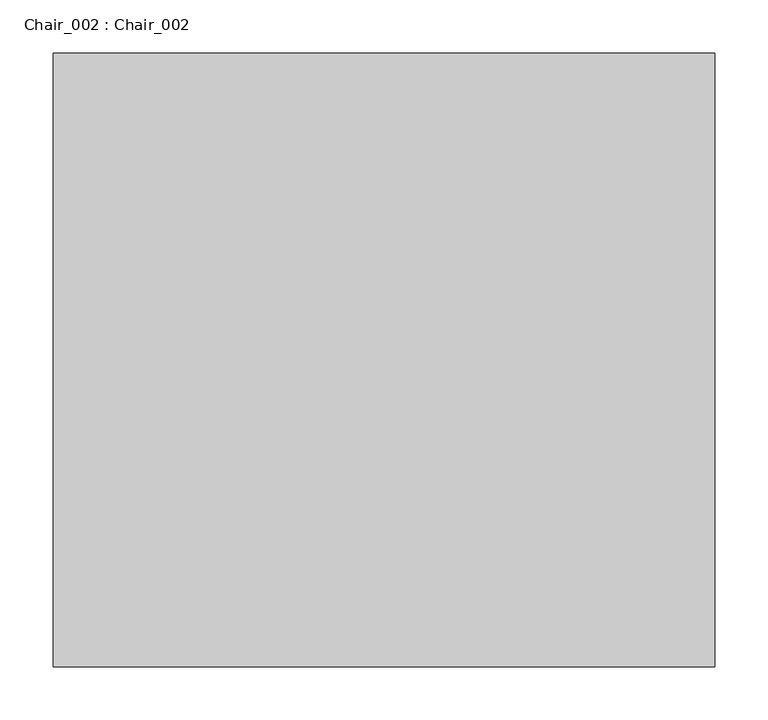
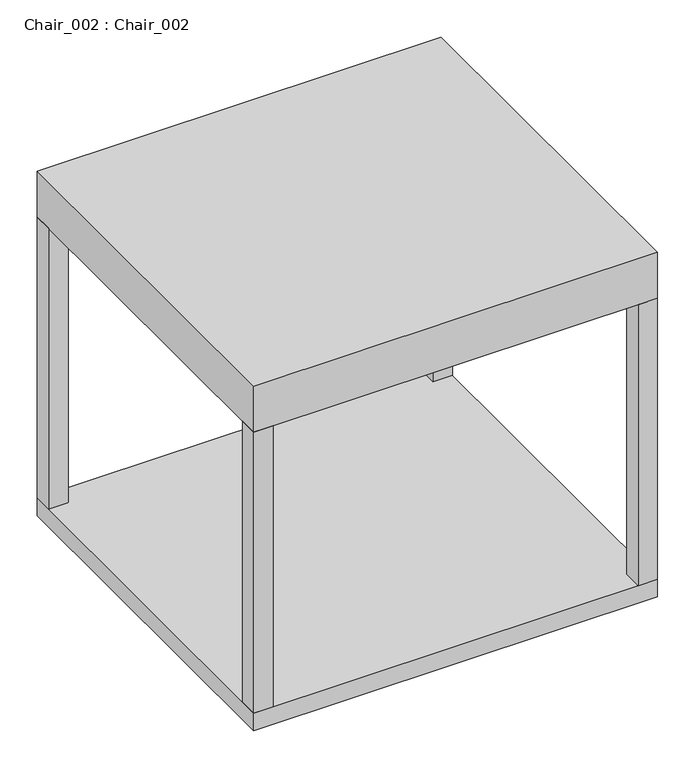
"""IFC4 building model written with IfcOpenShell, lengths in millimetres: furniture geometry, Chair_002 : Chair_002."""

import ifcopenshell
import ifcopenshell.guid

model = None  # the IFC model being written
_history = None  # IfcOwnerHistory: only IFC2X3 demands one
_inside = {}  # id of a spatial element -> (the spatial element, [elements in it])
_under = {}  # id of a project, library or spatial element -> (it, [spatial elements below it])
_declared = {}  # id of a project -> (the project, [libraries it declares])
_typed = {}  # id of a type object -> (the type object, [elements of that type])
_made_of = {}  # id of a material, layer set ... -> (it, [elements and type objects made of it])


def new_model(schema):
    """Start an empty IFC model of exactly this schema.

    Asked for "IFC4X3", IfcOpenShell would pick the latest addendum, in which some entities
    have other attributes; the version numbers below select the first issue.
    IFC2X3 requires an IfcOwnerHistory on every rooted entity: one is made here for all.
    """
    global model, _history
    if schema == "IFC4X3":
        model = ifcopenshell.file(schema_version=(4, 3, 0, 0))
    else:
        model = ifcopenshell.file(schema=schema)
    _inside.clear()
    _under.clear()
    _declared.clear()
    _typed.clear()
    _made_of.clear()
    _history = None
    if model.schema == "IFC2X3":
        org = make("IfcOrganization", Name="unknown")
        user = make(
            "IfcPersonAndOrganization",
            ThePerson=make("IfcPerson", FamilyName="unknown"),
            TheOrganization=org,
        )
        app = make(
            "IfcApplication",
            ApplicationDeveloper=org,
            Version="unknown",
            ApplicationFullName="unknown",
            ApplicationIdentifier="unknown",
        )
        _history = make(
            "IfcOwnerHistory",
            OwningUser=user,
            OwningApplication=app,
            ChangeAction="ADDED",
            CreationDate=0,
        )
    return model


def make(cls, **values):
    """One entity of the class cls with the attributes given. An attribute that is None is left unset."""
    return model.create_entity(
        cls, **{name: value for name, value in values.items() if value is not None}
    )


def rooted(cls, **values):
    """An entity with a GlobalId (a new one), such as an element, a storey or a relation."""
    return make(cls, GlobalId=ifcopenshell.guid.new(), OwnerHistory=_history, **values)


def si_unit(unit_type, name, prefix=None):
    """IfcSIUnit, for example si_unit("LENGTHUNIT", "METRE", prefix="MILLI")."""
    return make("IfcSIUnit", UnitType=unit_type, Prefix=prefix, Name=name)


def assignment(units):
    """IfcUnitAssignment: the units of a project."""
    return None if units is None else make("IfcUnitAssignment", Units=units)


def point(xyz):
    """IfcCartesianPoint."""
    return None if xyz is None else make("IfcCartesianPoint", Coordinates=xyz)


def direction(xyz):
    """IfcDirection."""
    return None if xyz is None else make("IfcDirection", DirectionRatios=xyz)


def frame(location, z_axis=None, x_axis=None):
    """IfcAxis2Placement3D, a coordinate frame: its origin and axes. An axis left out is left unset."""
    return make(
        "IfcAxis2Placement3D",
        Location=point(location),
        Axis=direction(z_axis),
        RefDirection=direction(x_axis),
    )


def origin():
    """The frame at (0, 0, 0) with its axes left unset."""
    return frame((0.0, 0.0, 0.0))


def origin_with_axes():
    """The frame at (0, 0, 0) with the z axis (0, 0, 1) and the x axis (1, 0, 0) written out."""
    return frame((0.0, 0.0, 0.0), z_axis=(0.0, 0.0, 1.0), x_axis=(1.0, 0.0, 0.0))


def place(relative_to, where):
    """IfcLocalPlacement: puts the frame where relative to a parent placement (None: the world)."""
    return make(
        "IfcLocalPlacement", PlacementRelTo=relative_to, RelativePlacement=where
    )


def context(
    kind, dimensions, precision=None, world=None, true_north=None, identifier=None
):
    """IfcGeometricRepresentationContext, for example the 3D "Model" context."""
    return make(
        "IfcGeometricRepresentationContext",
        ContextIdentifier=identifier,
        ContextType=kind,
        CoordinateSpaceDimension=dimensions,
        Precision=precision,
        WorldCoordinateSystem=world,
        TrueNorth=true_north,
    )


def project(units=None, contexts=None):
    """IfcProject with its units and contexts."""
    return rooted(
        "IfcProject",
        Name="project",
        RepresentationContexts=contexts,
        UnitsInContext=assignment(units),
    )


def spatial(cls, under=None, at=None, **own):
    """A site, building, storey or space (cls), placed at a placement, below another one or the project."""
    s = rooted(cls, ObjectPlacement=at, **own)
    if under is not None:
        _under.setdefault(under.id(), (under, []))[1].append(s)
    return s


def polyline(points):
    """IfcPolyline through the points."""
    return make("IfcPolyline", Points=[point(p) for p in points])


def outline(outer, holes=None, kind="AREA"):
    """IfcArbitraryClosedProfileDef: a profile drawn as a closed curve; with holes, ...WithVoids."""
    if holes is None:
        return make("IfcArbitraryClosedProfileDef", ProfileType=kind, OuterCurve=outer)
    return make(
        "IfcArbitraryProfileDefWithVoids",
        ProfileType=kind,
        OuterCurve=outer,
        InnerCurves=holes,
    )


def extrude(swept, where, along, depth):
    """IfcExtrudedAreaSolid: the profile swept, set in the frame where, extruded along a direction by depth."""
    return make(
        "IfcExtrudedAreaSolid",
        SweptArea=swept,
        Position=where,
        ExtrudedDirection=direction(along),
        Depth=depth,
    )


def shape(context_of_items, identifier, shape_type, items):
    """IfcShapeRepresentation: the items that make up one representation, for example the "Body"."""
    return make(
        "IfcShapeRepresentation",
        ContextOfItems=context_of_items,
        RepresentationIdentifier=identifier,
        RepresentationType=shape_type,
        Items=items,
    )


def source(mapping_origin, context_of_items, identifier, shape_type, items):
    """IfcRepresentationMap: a shape defined once, which mapped items show again and again."""
    return make(
        "IfcRepresentationMap",
        MappingOrigin=mapping_origin,
        MappedRepresentation=shape(context_of_items, identifier, shape_type, items),
    )


def transform(
    local_origin,
    x_axis=None,
    y_axis=None,
    z_axis=None,
    scale=None,
    scale2=None,
    scale3=None,
    uniform=True,
):
    """IfcCartesianTransformationOperator3D, or its non-uniform kind. x_axis, y_axis, z_axis: its Axis1, 2, 3."""
    if uniform:
        return make(
            "IfcCartesianTransformationOperator3D",
            Axis1=direction(x_axis),
            Axis2=direction(y_axis),
            LocalOrigin=point(local_origin),
            Scale=scale,
            Axis3=direction(z_axis),
        )
    return make(
        "IfcCartesianTransformationOperator3DnonUniform",
        Axis1=direction(x_axis),
        Axis2=direction(y_axis),
        LocalOrigin=point(local_origin),
        Scale=scale,
        Axis3=direction(z_axis),
        Scale2=scale2,
        Scale3=scale3,
    )


def mapped(mapping_source, mapping_target):
    """IfcMappedItem: shows the shape of a source again, moved by a transform."""
    return make(
        "IfcMappedItem", MappingSource=mapping_source, MappingTarget=mapping_target
    )


def made_of(thing, what):
    """Note that an element or type object is made of a material, layer set ...; save() writes the relation."""
    if what is not None:
        _made_of.setdefault(what.id(), (what, []))[1].append(thing)
    return thing


def element(
    cls,
    number,
    at=None,
    inside=None,
    cuts=None,
    type_object=None,
    material=None,
    context=None,
    identifier="Body",
    shape_type=None,
    held_by="IfcProductDefinitionShape",
    body=None,
    shapes=None,
    **own,
):
    """One element of the class cls, such as IfcWall. Its Tag is "e" and its number.

    at: its placement. inside: the storey or other place that contains it. cuts: it is an
    opening in that element (IfcRelVoidsElement). A single representation is given by context,
    identifier, shape_type and body (its items); several are given by shapes. held_by: the class
    of the entity that holds the representations. save() writes the other relations.
    """
    e = rooted(cls, Tag="e%d" % number, ObjectPlacement=at, **own)
    if body is not None:
        shapes = [shape(context, identifier, shape_type, body)]
    if shapes is not None:
        e.Representation = make(held_by, Representations=shapes)
    if inside is not None:
        _inside.setdefault(inside.id(), (inside, []))[1].append(e)
    if cuts is not None:
        rooted(
            "IfcRelVoidsElement", RelatingBuildingElement=cuts, RelatedOpeningElement=e
        )
    if type_object is not None:
        _typed.setdefault(type_object.id(), (type_object, []))[1].append(e)
    return made_of(e, material)


def aggregate(whole, parts):
    """IfcRelAggregates: a whole, such as a stair, and the parts it consists of."""
    return rooted("IfcRelAggregates", RelatingObject=whole, RelatedObjects=parts)


def save(model, path):
    """Write the relations noted so far, then the file.

    IfcRelAggregates (storeys below a building ...), IfcRelContainedInSpatialStructure (elements
    in a storey), IfcRelDefinesByType, IfcRelAssociatesMaterial and IfcRelDeclares: one each for
    every whole, place, type object, material and project.
    """
    for whole, parts in _under.values():
        aggregate(whole, parts)
    for where, things in _inside.values():
        rooted(
            "IfcRelContainedInSpatialStructure",
            RelatedElements=things,
            RelatingStructure=where,
        )
    for kind, things in _typed.values():
        rooted("IfcRelDefinesByType", RelatedObjects=things, RelatingType=kind)
    for what, things in _made_of.values():
        rooted("IfcRelAssociatesMaterial", RelatedObjects=things, RelatingMaterial=what)
    for by, libraries in _declared.values():
        rooted("IfcRelDeclares", RelatingContext=by, RelatedDefinitions=libraries)
    model.write(path)


def chair_002_chair_002_6fc5d0be(model_context):
    return source(origin(), model_context, "Body", "SweptSolid", [
        extrude(outline(polyline([(342.3269825, 329.0391002), (372.3269825, 329.0391002), (372.3269825, 299.0391002), (342.3269825, 299.0391002), (342.3269825, 329.0391002)])), frame((0.0, 0.0, 28.7360812), z_axis=(0.0, 0.0, 1.0), x_axis=(1.0, 0.0, 0.0)), (0.0, 0.0, 1.0), 458.448631),
        extrude(outline(polyline([(372.3269825, -220.0701983), (372.3269825, -250.0701983), (342.3269825, -250.0701983), (342.3269825, -220.0701983), (372.3269825, -220.0701983)])), frame((0.0, 0.0, 28.7360812), z_axis=(0.0, 0.0, 1.0), x_axis=(1.0, 0.0, 0.0)), (0.0, 0.0, 1.0), 458.448631),
        extrude(outline(polyline([(-221.6646885, -250.0701983), (-251.6646885, -250.0701983), (-251.6646885, -220.0701983), (-221.6646885, -220.0701983), (-221.6646885, -250.0701983)])), frame((0.0, 0.0, 28.7360812), z_axis=(0.0, 0.0, 1.0), x_axis=(1.0, 0.0, 0.0)), (0.0, 0.0, 1.0), 458.448631),
        extrude(outline(polyline([(-251.6646885, 299.0391002), (-251.6646885, 329.0391002), (-221.6646885, 329.0391002), (-221.6646885, 299.0391002), (-251.6646885, 299.0391002)])), frame((0.0, 0.0, 28.7360812), z_axis=(0.0, 0.0, 1.0), x_axis=(1.0, 0.0, 0.0)), (0.0, 0.0, 1.0), 458.448631),
        extrude(outline(polyline([(-251.6646885, 329.0391002), (372.3269825, 329.0391002), (372.3269825, -250.0701983), (-251.6646885, -250.0701983), (-251.6646885, 329.0391002)])), origin_with_axes(), (0.0, 0.0, 1.0), 28.7360812),
        extrude(outline(polyline([(-251.6646885, 329.0391002), (372.3269825, 329.0391002), (372.3269825, -250.0701983), (-251.6646885, -250.0701983), (-251.6646885, 329.0391002)])), frame((0.0, 0.0, 487.1847123), z_axis=(0.0, 0.0, 1.0), x_axis=(1.0, 0.0, 0.0)), (0.0, 0.0, 1.0), 74.9283817),
    ])


if __name__ == "__main__":
    model = new_model("IFC4")
    model_context = context("Model", 3, world=origin())
    ifc_project = project(units=[si_unit("LENGTHUNIT", "METRE", prefix="MILLI")], contexts=[model_context])
    site = spatial("IfcSite", under=ifc_project)
    building = spatial("IfcBuilding", under=site)
    placement = place(None, origin())
    chair_002_chair_002_shape = chair_002_chair_002_6fc5d0be(model_context)
    element("IfcFurniture", 1, ObjectType="Chair_002 : Chair_002", at=placement, inside=building, context=model_context, shape_type="MappedRepresentation", body=[
        mapped(chair_002_chair_002_shape, transform((0.0, 0.0, 0.0), x_axis=(1.0, 0.0, 0.0), y_axis=(0.0, 1.0, 0.0), z_axis=(0.0, 0.0, 1.0))),
    ])
    save(model, "model.ifc")
